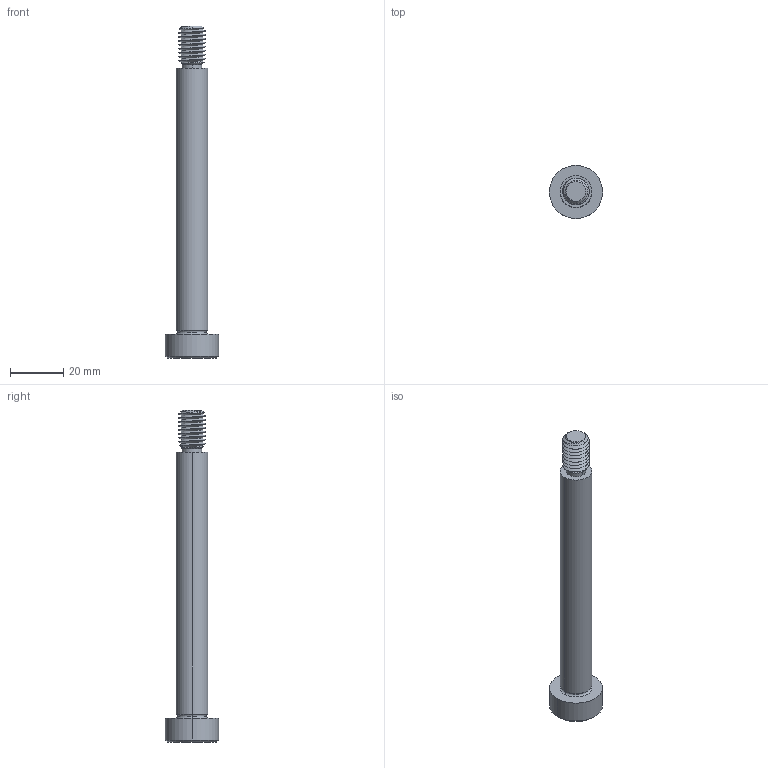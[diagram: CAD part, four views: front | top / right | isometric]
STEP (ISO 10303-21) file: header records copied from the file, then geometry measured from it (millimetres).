
FILE_DESCRIPTION (( 'STEP AP203' ), '1' );
FILE_NAME ('P0130.120-100-B2.step', '2021-11-09T22:12:09', ( '' ), ( '' ), 'SwSTEP 2.0', 'SolidWorks 2019', '' );
FILE_SCHEMA (( 'CONFIG_CONTROL_DESIGN' ));
Length unit declared in the file: millimetre
Products named in the file (1): P0130.120-100-B2
Bounding box: 20 x 20 x 125 mm (x, y, z)
Volume: 14796.2 mm3; surface area: 5890 mm2
Topology: 1 solids, 1 shells, 60 faces, 142 edges, 85 vertices
Faces by surface type: cylinder 23, plane 16, cone 15, torus 4, bspline 2
Entity records: 3534 total; most frequent: CARTESIAN_POINT 2187, ORIENTED_EDGE 280, DIRECTION 247, EDGE_CURVE 140, AXIS2_PLACEMENT_3D 99, VERTEX_POINT 85, EDGE_LOOP 63, ADVANCED_FACE 60
